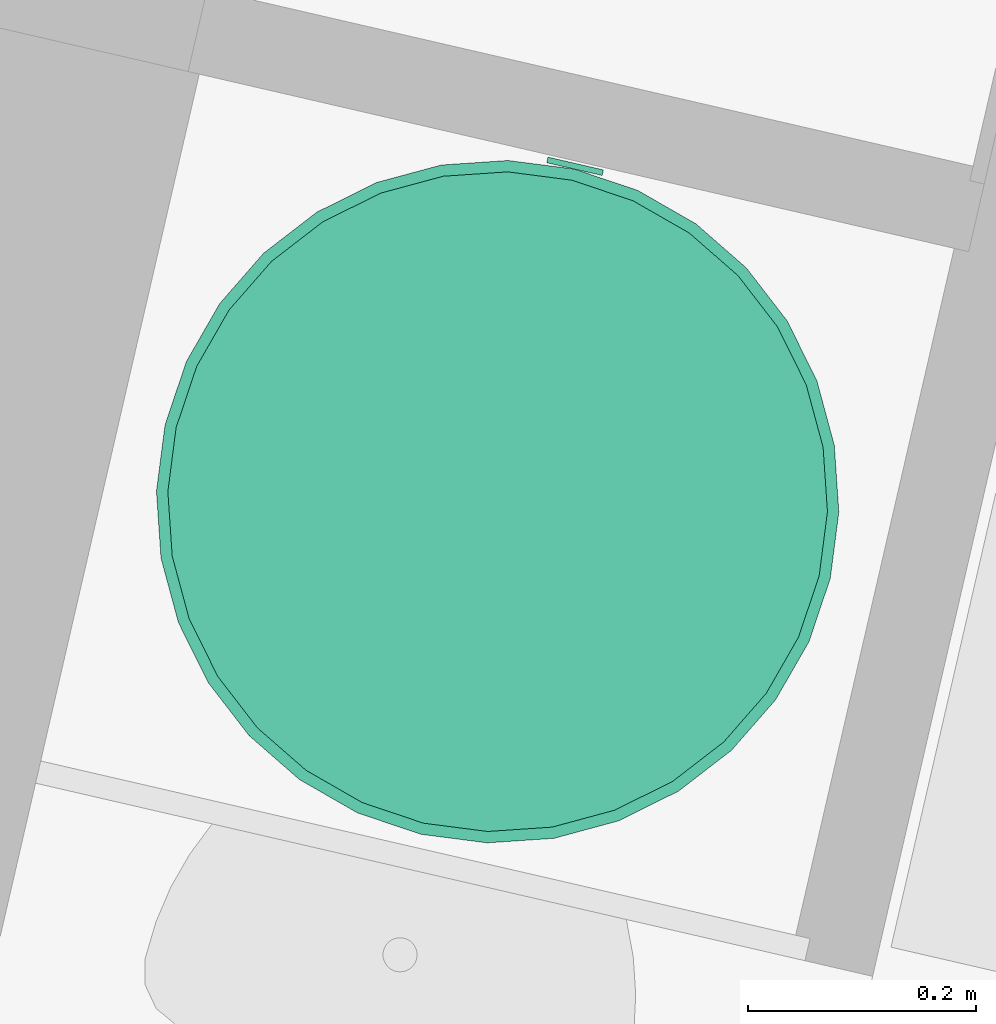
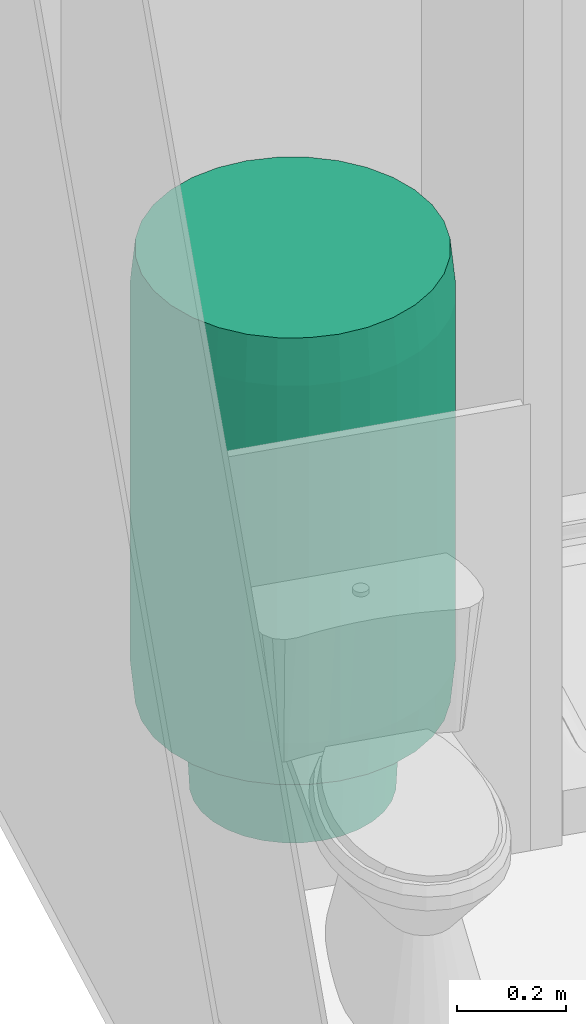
# One storey, part 94 of 119: 1 energy conversion device.
"""IFC2X3 building model written with IfcOpenShell, lengths in metres."""

import ifcopenshell
import ifcopenshell.guid

model = None  # the IFC model being written
_history = None  # IfcOwnerHistory: only IFC2X3 demands one
_inside = {}  # id of a spatial element -> (the spatial element, [elements in it])
_under = {}  # id of a project, library or spatial element -> (it, [spatial elements below it])
_declared = {}  # id of a project -> (the project, [libraries it declares])
_typed = {}  # id of a type object -> (the type object, [elements of that type])
_made_of = {}  # id of a material, layer set ... -> (it, [elements and type objects made of it])


def new_model(schema):
    """Start an empty IFC model of exactly this schema.

    Asked for "IFC4X3", IfcOpenShell would pick the latest addendum, in which some entities
    have other attributes; the version numbers below select the first issue.
    IFC2X3 requires an IfcOwnerHistory on every rooted entity: one is made here for all.
    """
    global model, _history
    if schema == "IFC4X3":
        model = ifcopenshell.file(schema_version=(4, 3, 0, 0))
    else:
        model = ifcopenshell.file(schema=schema)
    _inside.clear()
    _under.clear()
    _declared.clear()
    _typed.clear()
    _made_of.clear()
    _history = None
    if model.schema == "IFC2X3":
        org = make("IfcOrganization", Name="unknown")
        user = make(
            "IfcPersonAndOrganization",
            ThePerson=make("IfcPerson", FamilyName="unknown"),
            TheOrganization=org,
        )
        app = make(
            "IfcApplication",
            ApplicationDeveloper=org,
            Version="unknown",
            ApplicationFullName="unknown",
            ApplicationIdentifier="unknown",
        )
        _history = make(
            "IfcOwnerHistory",
            OwningUser=user,
            OwningApplication=app,
            ChangeAction="ADDED",
            CreationDate=0,
        )
    return model


def make(cls, **values):
    """One entity of the class cls with the attributes given. An attribute that is None is left unset."""
    return model.create_entity(
        cls, **{name: value for name, value in values.items() if value is not None}
    )


def entity(cls, *values):
    """Any entity or typed value of the class cls, its attributes in the order of the schema. None: left unset."""
    e = model.create_entity(cls)
    for i, value in enumerate(values):
        if value is not None:
            e[i] = value
    return e


def rooted(cls, **values):
    """An entity with a GlobalId (a new one), such as an element, a storey or a relation."""
    return make(cls, GlobalId=ifcopenshell.guid.new(), OwnerHistory=_history, **values)


def si_unit(unit_type, name, prefix=None):
    """IfcSIUnit, for example si_unit("LENGTHUNIT", "METRE", prefix="MILLI")."""
    return make("IfcSIUnit", UnitType=unit_type, Prefix=prefix, Name=name)


def converted_unit(unit_type, name, factor, base, dimensions=None, offset=None):
    """IfcConversionBasedUnit, such as the inch: factor (a typed value) times the base unit."""
    return make(
        "IfcConversionBasedUnit"
        if offset is None
        else "IfcConversionBasedUnitWithOffset",
        ConversionOffset=offset,
        Dimensions=None
        if dimensions is None
        else entity("IfcDimensionalExponents", *dimensions),
        UnitType=unit_type,
        Name=name,
        ConversionFactor=make(
            "IfcMeasureWithUnit", ValueComponent=factor, UnitComponent=base
        ),
    )


def derived_unit(unit_type, elements):
    """IfcDerivedUnit: a product of units, each with its exponent."""
    return make(
        "IfcDerivedUnit",
        Elements=[
            make("IfcDerivedUnitElement", Unit=unit, Exponent=power)
            for unit, power in elements
        ],
        UnitType=unit_type,
    )


def money_unit(currency):
    """IfcMonetaryUnit."""
    return make("IfcMonetaryUnit", Currency=currency)


def assignment(units):
    """IfcUnitAssignment: the units of a project."""
    return None if units is None else make("IfcUnitAssignment", Units=units)


def point(xyz):
    """IfcCartesianPoint."""
    return None if xyz is None else make("IfcCartesianPoint", Coordinates=xyz)


def direction(xyz):
    """IfcDirection."""
    return None if xyz is None else make("IfcDirection", DirectionRatios=xyz)


def frame(location, z_axis=None, x_axis=None):
    """IfcAxis2Placement3D, a coordinate frame: its origin and axes. An axis left out is left unset."""
    return make(
        "IfcAxis2Placement3D",
        Location=point(location),
        Axis=direction(z_axis),
        RefDirection=direction(x_axis),
    )


def origin_with_axes():
    """The frame at (0, 0, 0) with the z axis (0, 0, 1) and the x axis (1, 0, 0) written out."""
    return frame((0.0, 0.0, 0.0), z_axis=(0.0, 0.0, 1.0), x_axis=(1.0, 0.0, 0.0))


def place(relative_to, where):
    """IfcLocalPlacement: puts the frame where relative to a parent placement (None: the world)."""
    return make(
        "IfcLocalPlacement", PlacementRelTo=relative_to, RelativePlacement=where
    )


def context(
    kind, dimensions, precision=None, world=None, true_north=None, identifier=None
):
    """IfcGeometricRepresentationContext, for example the 3D "Model" context."""
    return make(
        "IfcGeometricRepresentationContext",
        ContextIdentifier=identifier,
        ContextType=kind,
        CoordinateSpaceDimension=dimensions,
        Precision=precision,
        WorldCoordinateSystem=world,
        TrueNorth=true_north,
    )


def subcontext(parent, identifier, kind, view, scale=None):
    """IfcGeometricRepresentationSubContext, for example "Body" below "Model"."""
    return make(
        "IfcGeometricRepresentationSubContext",
        ContextIdentifier=identifier,
        ContextType=kind,
        ParentContext=parent,
        TargetScale=scale,
        TargetView=view,
    )


def project(units=None, contexts=None):
    """IfcProject with its units and contexts."""
    return rooted(
        "IfcProject",
        Name="project",
        RepresentationContexts=contexts,
        UnitsInContext=assignment(units),
    )


def spatial(cls, under=None, at=None, **own):
    """A site, building, storey or space (cls), placed at a placement, below another one or the project."""
    s = rooted(cls, ObjectPlacement=at, **own)
    if under is not None:
        _under.setdefault(under.id(), (under, []))[1].append(s)
    return s


def faces_of(points, faces, orient=None, outer=None):
    """IfcFace entities. A face is a list of loops; a loop is a list of indices into points, from 0.

    orient and outer hold one flag for each loop. By default every Orientation is true, the
    first loop of a face is its IfcFaceOuterBound and the others are IfcFaceBound.
    """
    made = []
    for i, loops in enumerate(faces):
        bounds = []
        for j, loop in enumerate(loops):
            is_outer = j == 0 if outer is None else outer[i][j]
            bounds.append(
                make(
                    "IfcFaceOuterBound" if is_outer else "IfcFaceBound",
                    Bound=make("IfcPolyLoop", Polygon=[points[k] for k in loop]),
                    Orientation=True if orient is None else orient[i][j],
                )
            )
        made.append(make("IfcFace", Bounds=bounds))
    return made


def open_shell(faces, orient=None, outer=None):
    """The faces of one IfcOpenShell. surface_model builds it on its shared points."""
    return ("IfcOpenShell", faces, orient, outer)


def faceted_brep(points, faces, orient=None, outer=None, voids=None):
    """IfcFacetedBrep: a solid bounded by flat faces; with voids (closed shells), ...WithVoids."""
    shared = [point(p) for p in points]
    hull = make("IfcClosedShell", CfsFaces=faces_of(shared, faces, orient, outer))
    if voids is None:
        return make("IfcFacetedBrep", Outer=hull)
    return make(
        "IfcFacetedBrepWithVoids",
        Outer=hull,
        Voids=[
            make(cls, CfsFaces=faces_of(shared, fs, o, b)) for cls, fs, o, b in voids
        ],
    )


def surface_model(cls, points, shells):
    """IfcFaceBasedSurfaceModel or IfcShellBasedSurfaceModel (cls): surfaces that need not close."""
    shared = [point(p) for p in points]
    made = [make(c, CfsFaces=faces_of(shared, fs, o, b)) for c, fs, o, b in shells]
    if cls == "IfcFaceBasedSurfaceModel":
        return make(cls, FbsmFaces=made)
    return make(cls, SbsmBoundary=made)


def shape(context_of_items, identifier, shape_type, items):
    """IfcShapeRepresentation: the items that make up one representation, for example the "Body"."""
    return make(
        "IfcShapeRepresentation",
        ContextOfItems=context_of_items,
        RepresentationIdentifier=identifier,
        RepresentationType=shape_type,
        Items=items,
    )


def source(mapping_origin, context_of_items, identifier, shape_type, items):
    """IfcRepresentationMap: a shape defined once, which mapped items show again and again."""
    return make(
        "IfcRepresentationMap",
        MappingOrigin=mapping_origin,
        MappedRepresentation=shape(context_of_items, identifier, shape_type, items),
    )


def transform(
    local_origin,
    x_axis=None,
    y_axis=None,
    z_axis=None,
    scale=None,
    scale2=None,
    scale3=None,
    uniform=True,
):
    """IfcCartesianTransformationOperator3D, or its non-uniform kind. x_axis, y_axis, z_axis: its Axis1, 2, 3."""
    if uniform:
        return make(
            "IfcCartesianTransformationOperator3D",
            Axis1=direction(x_axis),
            Axis2=direction(y_axis),
            LocalOrigin=point(local_origin),
            Scale=scale,
            Axis3=direction(z_axis),
        )
    return make(
        "IfcCartesianTransformationOperator3DnonUniform",
        Axis1=direction(x_axis),
        Axis2=direction(y_axis),
        LocalOrigin=point(local_origin),
        Scale=scale,
        Axis3=direction(z_axis),
        Scale2=scale2,
        Scale3=scale3,
    )


def mapped(mapping_source, mapping_target):
    """IfcMappedItem: shows the shape of a source again, moved by a transform."""
    return make(
        "IfcMappedItem", MappingSource=mapping_source, MappingTarget=mapping_target
    )


def made_of(thing, what):
    """Note that an element or type object is made of a material, layer set ...; save() writes the relation."""
    if what is not None:
        _made_of.setdefault(what.id(), (what, []))[1].append(thing)
    return thing


def type_object(cls, material=None, **own):
    """A type object (cls), such as IfcWallType, which elements share."""
    return made_of(rooted(cls, **own), material)


def element(
    cls,
    number,
    at=None,
    inside=None,
    cuts=None,
    type_object=None,
    material=None,
    context=None,
    identifier="Body",
    shape_type=None,
    held_by="IfcProductDefinitionShape",
    body=None,
    shapes=None,
    **own,
):
    """One element of the class cls, such as IfcWall. Its Tag is "e" and its number.

    at: its placement. inside: the storey or other place that contains it. cuts: it is an
    opening in that element (IfcRelVoidsElement). A single representation is given by context,
    identifier, shape_type and body (its items); several are given by shapes. held_by: the class
    of the entity that holds the representations. save() writes the other relations.
    """
    e = rooted(cls, Tag="e%d" % number, ObjectPlacement=at, **own)
    if body is not None:
        shapes = [shape(context, identifier, shape_type, body)]
    if shapes is not None:
        e.Representation = make(held_by, Representations=shapes)
    if inside is not None:
        _inside.setdefault(inside.id(), (inside, []))[1].append(e)
    if cuts is not None:
        rooted(
            "IfcRelVoidsElement", RelatingBuildingElement=cuts, RelatedOpeningElement=e
        )
    if type_object is not None:
        _typed.setdefault(type_object.id(), (type_object, []))[1].append(e)
    return made_of(e, material)


def aggregate(whole, parts):
    """IfcRelAggregates: a whole, such as a stair, and the parts it consists of."""
    return rooted("IfcRelAggregates", RelatingObject=whole, RelatedObjects=parts)


def save(model, path):
    """Write the relations noted so far, then the file.

    IfcRelAggregates (storeys below a building ...), IfcRelContainedInSpatialStructure (elements
    in a storey), IfcRelDefinesByType, IfcRelAssociatesMaterial and IfcRelDeclares: one each for
    every whole, place, type object, material and project.
    """
    for whole, parts in _under.values():
        aggregate(whole, parts)
    for where, things in _inside.values():
        rooted(
            "IfcRelContainedInSpatialStructure",
            RelatedElements=things,
            RelatingStructure=where,
        )
    for kind, things in _typed.values():
        rooted("IfcRelDefinesByType", RelatedObjects=things, RelatingType=kind)
    for what, things in _made_of.values():
        rooted("IfcRelAssociatesMaterial", RelatedObjects=things, RelatingMaterial=what)
    for by, libraries in _declared.values():
        rooted("IfcRelDeclares", RelatingContext=by, RelatedDefinitions=libraries)
    model.write(path)


model = new_model("IFC2X3")

# Units and contexts
model_context = context("Model", 3, precision=1e-05, world=origin_with_axes(), true_north=direction((0.0, 1.0)))
body_context = subcontext(model_context, "Body", "Model", "MODEL_VIEW")
ifc_project = project(units=[si_unit("LENGTHUNIT", "METRE"), si_unit("AREAUNIT", "SQUARE_METRE"), si_unit("VOLUMEUNIT", "CUBIC_METRE"), converted_unit("PLANEANGLEUNIT", "DEGREE", entity("IfcPlaneAngleMeasure", 0.0174532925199), si_unit("PLANEANGLEUNIT", "RADIAN"), dimensions=[0, 0, 0, 0, 0, 0, 0]), si_unit("SOLIDANGLEUNIT", "STERADIAN"), money_unit("EUR"), converted_unit("TIMEUNIT", "Year", entity("IfcTimeMeasure", 31556926.0), si_unit("TIMEUNIT", "SECOND"), dimensions=[0, 0, 1, 0, 0, 0, 0]), si_unit("MASSUNIT", "GRAM", prefix="KILO"), si_unit("THERMODYNAMICTEMPERATUREUNIT", "DEGREE_CELSIUS"), si_unit("LUMINOUSINTENSITYUNIT", "LUMEN"), si_unit("ENERGYUNIT", "JOULE", prefix="MEGA"), derived_unit("THERMALCONDUCTANCEUNIT", [(si_unit("POWERUNIT", "WATT"), 1), (si_unit("LENGTHUNIT", "METRE"), -1), (si_unit("THERMODYNAMICTEMPERATUREUNIT", "KELVIN"), -1)]), derived_unit("SPECIFICHEATCAPACITYUNIT", [(si_unit("ENERGYUNIT", "JOULE"), 1), (si_unit("MASSUNIT", "GRAM", prefix="KILO"), -1), (si_unit("THERMODYNAMICTEMPERATUREUNIT", "KELVIN"), -1)]), derived_unit("MASSDENSITYUNIT", [(si_unit("MASSUNIT", "GRAM", prefix="KILO"), 1), (si_unit("VOLUMEUNIT", "CUBIC_METRE"), -1)])], contexts=[model_context])

# Site, building, storey
site_placement = place(None, origin_with_axes())
site = spatial("IfcSite", under=ifc_project, at=site_placement, Name="Site", CompositionType="ELEMENT")
building_placement = place(site_placement, origin_with_axes())
building = spatial("IfcBuilding", under=site, at=building_placement, Name="Bâtiment", CompositionType="ELEMENT")
storey_placement = place(building_placement, origin_with_axes())
storey = spatial("IfcBuildingStorey", under=building, at=storey_placement, Name="Rez-de-chaussée", CompositionType="ELEMENT", Elevation=0.0)

# Energy conversion device
heat_exchanger_type = type_object("IfcHeatExchangerType", Name="Chauffe-eau électrique 23", PredefinedType="SHELLANDTUBE")
shared_shape = source(origin_with_axes(), body_context, "Body", "SurfaceModel", [
    surface_model("IfcShellBasedSurfaceModel", [(-0.245, -0.0135, 0.2), (-0.245, -0.0135, 0.18), (-0.241505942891, -0.0130399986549, 0.18), (-0.241505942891, -0.0130399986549, 0.2), (-0.248494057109, -0.0130399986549, 0.2), (-0.248494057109, -0.0130399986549, 0.18), (-0.23825, -0.0116913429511, 0.18), (-0.23825, -0.0116913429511, 0.2), (-0.25175, -0.0116913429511, 0.2), (-0.25175, -0.0116913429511, 0.18), (-0.235454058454, -0.00954594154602, 0.18), (-0.235454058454, -0.00954594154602, 0.2), (-0.254545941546, -0.00954594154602, 0.2), (-0.254545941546, -0.00954594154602, 0.18), (-0.233308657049, -0.00675, 0.18), (-0.233308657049, -0.00675, 0.2), (-0.256691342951, -0.00675, 0.2), (-0.256691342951, -0.00675, 0.18), (-0.231960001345, -0.00349405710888, 0.18), (-0.231960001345, -0.00349405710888, 0.2), (-0.258039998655, -0.00349405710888, 0.2), (-0.258039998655, -0.00349405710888, 0.18), (-0.2315, 0.0, 0.18), (-0.2315, 0.0, 0.2), (-0.2585, 0.0, 0.2), (-0.2585, 0.0, 0.18), (-0.231960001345, 0.00349405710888, 0.18), (-0.231960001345, 0.00349405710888, 0.2), (-0.258039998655, 0.00349405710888, 0.2), (-0.258039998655, 0.00349405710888, 0.18), (-0.233308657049, 0.00675, 0.18), (-0.233308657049, 0.00675, 0.2), (-0.256691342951, 0.00675, 0.2), (-0.256691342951, 0.00675, 0.18), (-0.235454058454, 0.00954594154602, 0.18), (-0.235454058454, 0.00954594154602, 0.2), (-0.254545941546, 0.00954594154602, 0.2), (-0.254545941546, 0.00954594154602, 0.18), (-0.23825, 0.0116913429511, 0.18), (-0.23825, 0.0116913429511, 0.2), (-0.25175, 0.0116913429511, 0.2), (-0.25175, 0.0116913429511, 0.18), (-0.241505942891, 0.0130399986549, 0.18), (-0.241505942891, 0.0130399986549, 0.2), (-0.248494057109, 0.0130399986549, 0.2), (-0.248494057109, 0.0130399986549, 0.18), (-0.245, 0.0135, 0.18), (-0.245, 0.0135, 0.2)], [open_shell([[[0, 1, 2, 3]], [[4, 5, 1, 0]], [[3, 2, 6, 7]], [[8, 9, 5, 4]], [[7, 6, 10, 11]], [[12, 13, 9, 8]], [[11, 10, 14, 15]], [[16, 17, 13, 12]], [[15, 14, 18, 19]], [[20, 21, 17, 16]], [[19, 18, 22, 23]], [[24, 25, 21, 20]], [[23, 22, 26, 27]], [[28, 29, 25, 24]], [[27, 26, 30, 31]], [[32, 33, 29, 28]], [[31, 30, 34, 35]], [[36, 37, 33, 32]], [[35, 34, 38, 39]], [[40, 41, 37, 36]], [[39, 38, 42, 43]], [[44, 45, 41, 40]], [[43, 42, 46, 47]], [[47, 46, 45, 44]]])]),
    surface_model("IfcShellBasedSurfaceModel", [(0.245, -0.0135, 0.2), (0.245, -0.0135, 0.18), (0.248494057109, -0.0130399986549, 0.18), (0.248494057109, -0.0130399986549, 0.2), (0.241505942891, -0.0130399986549, 0.2), (0.241505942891, -0.0130399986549, 0.18), (0.25175, -0.0116913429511, 0.18), (0.25175, -0.0116913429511, 0.2), (0.23825, -0.0116913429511, 0.2), (0.23825, -0.0116913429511, 0.18), (0.254545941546, -0.00954594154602, 0.18), (0.254545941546, -0.00954594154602, 0.2), (0.235454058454, -0.00954594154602, 0.2), (0.235454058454, -0.00954594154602, 0.18), (0.256691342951, -0.00675, 0.18), (0.256691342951, -0.00675, 0.2), (0.233308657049, -0.00675, 0.2), (0.233308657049, -0.00675, 0.18), (0.258039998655, -0.00349405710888, 0.18), (0.258039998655, -0.00349405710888, 0.2), (0.231960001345, -0.00349405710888, 0.2), (0.231960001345, -0.00349405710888, 0.18), (0.2585, 0.0, 0.18), (0.2585, 0.0, 0.2), (0.2315, 0.0, 0.2), (0.2315, 0.0, 0.18), (0.258039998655, 0.00349405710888, 0.18), (0.258039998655, 0.00349405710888, 0.2), (0.231960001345, 0.00349405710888, 0.2), (0.231960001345, 0.00349405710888, 0.18), (0.256691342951, 0.00675, 0.18), (0.256691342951, 0.00675, 0.2), (0.233308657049, 0.00675, 0.2), (0.233308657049, 0.00675, 0.18), (0.254545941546, 0.00954594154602, 0.18), (0.254545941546, 0.00954594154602, 0.2), (0.235454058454, 0.00954594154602, 0.2), (0.235454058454, 0.00954594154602, 0.18), (0.25175, 0.0116913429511, 0.18), (0.25175, 0.0116913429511, 0.2), (0.23825, 0.0116913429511, 0.2), (0.23825, 0.0116913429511, 0.18), (0.248494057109, 0.0130399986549, 0.18), (0.248494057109, 0.0130399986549, 0.2), (0.241505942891, 0.0130399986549, 0.2), (0.241505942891, 0.0130399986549, 0.18), (0.245, 0.0135, 0.18), (0.245, 0.0135, 0.2)], [open_shell([[[0, 1, 2, 3]], [[4, 5, 1, 0]], [[3, 2, 6, 7]], [[8, 9, 5, 4]], [[7, 6, 10, 11]], [[12, 13, 9, 8]], [[11, 10, 14, 15]], [[16, 17, 13, 12]], [[15, 14, 18, 19]], [[20, 21, 17, 16]], [[19, 18, 22, 23]], [[24, 25, 21, 20]], [[23, 22, 26, 27]], [[28, 29, 25, 24]], [[27, 26, 30, 31]], [[32, 33, 29, 28]], [[31, 30, 34, 35]], [[36, 37, 33, 32]], [[35, 34, 38, 39]], [[40, 41, 37, 36]], [[39, 38, 42, 43]], [[44, 45, 41, 40]], [[43, 42, 46, 47]], [[47, 46, 45, 44]]])]),
    faceted_brep([(-0.025, -0.305, 0.4), (-0.025, -0.3, 0.4), (0.025, -0.3, 0.4), (0.025, -0.305, 0.4), (-0.025, -0.305, 0.42), (-0.025, -0.3, 0.42), (0.025, -0.3, 0.42), (0.025, -0.305, 0.42)], [[[0, 1, 2, 3]], [[0, 4, 5, 1]], [[1, 5, 6, 2]], [[2, 6, 7, 3]], [[3, 7, 4, 0]], [[7, 6, 5, 4]]]),
    faceted_brep([(0.0222836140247, -0.16, 0.088519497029), (0.02, -0.16, 0.1), (0.0222836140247, -0.16, 0.111480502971), (0.0287867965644, -0.16, 0.121213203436), (0.038519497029, -0.16, 0.127716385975), (0.05, -0.16, 0.13), (0.061480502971, -0.16, 0.127716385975), (0.0712132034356, -0.16, 0.121213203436), (0.0777163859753, -0.16, 0.111480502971), (0.08, -0.16, 0.1), (0.0777163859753, -0.16, 0.088519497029), (0.0712132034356, -0.16, 0.0787867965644), (0.061480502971, -0.16, 0.0722836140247), (0.05, -0.16, 0.07), (0.038519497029, -0.16, 0.0722836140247), (0.0287867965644, -0.16, 0.0787867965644), (0.0222836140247, -0.175, 0.088519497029), (0.02, -0.175, 0.1), (0.0222836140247, -0.175, 0.111480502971), (0.0287867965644, -0.175, 0.121213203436), (0.038519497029, -0.175, 0.127716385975), (0.05, -0.175, 0.13), (0.061480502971, -0.175, 0.127716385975), (0.0712132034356, -0.175, 0.121213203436), (0.0777163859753, -0.175, 0.111480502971), (0.08, -0.175, 0.1), (0.0777163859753, -0.175, 0.088519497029), (0.0712132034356, -0.175, 0.0787867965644), (0.061480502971, -0.175, 0.0722836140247), (0.05, -0.175, 0.07), (0.038519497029, -0.175, 0.0722836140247), (0.0287867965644, -0.175, 0.0787867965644)], [[[0, 1, 2, 3, 4, 5, 6, 7, 8, 9, 10, 11, 12, 13, 14, 15]], [[0, 16, 17, 1]], [[1, 17, 18, 2]], [[2, 18, 19, 3]], [[3, 19, 20, 4]], [[4, 20, 21, 5]], [[5, 21, 22, 6]], [[6, 22, 23, 7]], [[7, 23, 24, 8]], [[8, 24, 25, 9]], [[9, 25, 26, 10]], [[10, 26, 27, 11]], [[11, 27, 28, 12]], [[12, 28, 29, 13]], [[13, 29, 30, 14]], [[14, 30, 31, 15]], [[15, 31, 16, 0]], [[16, 31, 30, 29, 28, 27, 26, 25, 24, 23, 22, 21, 20, 19, 18, 17]]]),
    faceted_brep([(-0.0777163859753, -0.16, 0.088519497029), (-0.08, -0.16, 0.1), (-0.0777163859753, -0.16, 0.111480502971), (-0.0712132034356, -0.16, 0.121213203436), (-0.061480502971, -0.16, 0.127716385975), (-0.05, -0.16, 0.13), (-0.038519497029, -0.16, 0.127716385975), (-0.0287867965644, -0.16, 0.121213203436), (-0.0222836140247, -0.16, 0.111480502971), (-0.02, -0.16, 0.1), (-0.0222836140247, -0.16, 0.088519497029), (-0.0287867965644, -0.16, 0.0787867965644), (-0.038519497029, -0.16, 0.0722836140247), (-0.05, -0.16, 0.07), (-0.061480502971, -0.16, 0.0722836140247), (-0.0712132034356, -0.16, 0.0787867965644), (-0.0777163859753, -0.175, 0.088519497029), (-0.08, -0.175, 0.1), (-0.0777163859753, -0.175, 0.111480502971), (-0.0712132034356, -0.175, 0.121213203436), (-0.061480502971, -0.175, 0.127716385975), (-0.05, -0.175, 0.13), (-0.038519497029, -0.175, 0.127716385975), (-0.0287867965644, -0.175, 0.121213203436), (-0.0222836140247, -0.175, 0.111480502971), (-0.02, -0.175, 0.1), (-0.0222836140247, -0.175, 0.088519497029), (-0.0287867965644, -0.175, 0.0787867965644), (-0.038519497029, -0.175, 0.0722836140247), (-0.05, -0.175, 0.07), (-0.061480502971, -0.175, 0.0722836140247), (-0.0712132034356, -0.175, 0.0787867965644)], [[[0, 1, 2, 3, 4, 5, 6, 7, 8, 9, 10, 11, 12, 13, 14, 15]], [[0, 16, 17, 1]], [[1, 17, 18, 2]], [[2, 18, 19, 3]], [[3, 19, 20, 4]], [[4, 20, 21, 5]], [[5, 21, 22, 6]], [[6, 22, 23, 7]], [[7, 23, 24, 8]], [[8, 24, 25, 9]], [[9, 25, 26, 10]], [[10, 26, 27, 11]], [[11, 27, 28, 12]], [[12, 28, 29, 13]], [[13, 29, 30, 14]], [[14, 30, 31, 15]], [[15, 31, 16, 0]], [[16, 31, 30, 29, 28, 27, 26, 25, 24, 23, 22, 21, 20, 19, 18, 17]]]),
    faceted_brep([(-0.186349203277, -0.0370671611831, 0.0), (-0.196157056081, -0.0390180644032, 0.2), (-0.2, 0.0, 0.2), (-0.19, 0.0, 0.0), (-0.175537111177, -0.0727098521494, 0.0), (-0.184775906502, -0.076536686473, 0.2), (-0.166293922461, -0.111114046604, 0.2), (-0.141421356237, -0.141421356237, 0.2), (-0.118783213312, -0.16, 0.2), (0.118783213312, -0.16, 0.2), (0.141421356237, -0.141421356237, 0.2), (0.166293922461, -0.111114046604, 0.2), (0.184775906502, -0.076536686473, 0.2), (0.196157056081, -0.0390180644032, 0.2), (0.2, 0.0, 0.2), (0.196157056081, 0.0390180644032, 0.2), (0.184775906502, 0.076536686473, 0.2), (0.166293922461, 0.111114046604, 0.2), (0.141421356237, 0.141421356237, 0.2), (0.111114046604, 0.166293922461, 0.2), (0.076536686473, 0.184775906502, 0.2), (0.0390180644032, 0.196157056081, 0.2), (0.0, 0.2, 0.2), (-0.0390180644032, 0.196157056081, 0.2), (-0.076536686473, 0.184775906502, 0.2), (-0.111114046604, 0.166293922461, 0.2), (-0.141421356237, 0.141421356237, 0.2), (-0.166293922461, 0.111114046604, 0.2), (-0.184775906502, 0.076536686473, 0.2), (-0.196157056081, 0.0390180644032, 0.2), (-0.186349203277, 0.0370671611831, 0.0), (-0.175537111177, 0.0727098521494, 0.0), (-0.157979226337, 0.105558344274, 0.0), (-0.134350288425, 0.134350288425, 0.0), (-0.105558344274, 0.157979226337, 0.0), (-0.0727098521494, 0.175537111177, 0.0), (-0.0370671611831, 0.186349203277, 0.0), (0.0, 0.19, 0.0), (0.0370671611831, 0.186349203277, 0.0), (0.0727098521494, 0.175537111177, 0.0), (0.105558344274, 0.157979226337, 0.0), (0.134350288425, 0.134350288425, 0.0), (0.157979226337, 0.105558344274, 0.0), (0.175537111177, 0.0727098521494, 0.0), (0.186349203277, 0.0370671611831, 0.0), (0.19, 0.0, 0.0), (0.186349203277, -0.0370671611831, 0.0), (0.175537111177, -0.0727098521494, 0.0), (0.157979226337, -0.105558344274, 0.0), (0.134350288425, -0.134350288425, 0.0), (0.105558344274, -0.157979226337, 0.0), (0.101777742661, -0.16, 0.0), (-0.101777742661, -0.16, 0.0), (-0.105558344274, -0.157979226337, 0.0), (-0.134350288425, -0.134350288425, 0.0), (-0.157979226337, -0.105558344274, 0.0), (-0.106908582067, -0.16, 0.0486072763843), (0.106908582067, -0.16, 0.0486072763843)], [[[0, 1, 2, 3]], [[4, 5, 1, 0]], [[1, 5, 6, 7, 8, 9, 10, 11, 12, 13, 14, 15, 16, 17, 18, 19, 20, 21, 22, 23, 24, 25, 26, 27, 28, 29, 2]], [[3, 2, 29, 30]], [[0, 3, 30, 31, 32, 33, 34, 35, 36, 37, 38, 39, 40, 41, 42, 43, 44, 45, 46, 47, 48, 49, 50, 51, 52, 53, 54, 55, 4]], [[55, 6, 5, 4]], [[54, 7, 6, 55]], [[53, 56, 8, 7, 54]], [[51, 57, 9, 8, 56, 52]], [[49, 10, 9, 57, 50]], [[48, 11, 10, 49]], [[47, 12, 11, 48]], [[46, 13, 12, 47]], [[45, 14, 13, 46]], [[44, 15, 14, 45]], [[43, 16, 15, 44]], [[42, 17, 16, 43]], [[41, 18, 17, 42]], [[40, 19, 18, 41]], [[39, 20, 19, 40]], [[38, 21, 20, 39]], [[37, 22, 21, 38]], [[36, 23, 22, 37]], [[35, 24, 23, 36]], [[34, 25, 24, 35]], [[33, 26, 25, 34]], [[32, 27, 26, 33]], [[31, 28, 27, 32]], [[30, 29, 28, 31]], [[50, 57, 51]], [[52, 56, 53]]]),
    faceted_brep([(-0.284427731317, -0.0565761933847, 0.2), (-0.294235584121, -0.0585270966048, 0.3), (-0.3, 0.0, 0.3), (-0.29, 0.0, 0.2), (-0.267925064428, -0.110978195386, 0.2), (-0.277163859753, -0.11480502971, 0.3), (-0.249440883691, -0.166671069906, 0.3), (-0.212132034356, -0.212132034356, 0.3), (-0.166671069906, -0.249440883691, 0.3), (-0.11480502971, -0.277163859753, 0.3), (-0.0585270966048, -0.294235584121, 0.3), (0.0, -0.3, 0.3), (0.0585270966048, -0.294235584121, 0.3), (0.11480502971, -0.277163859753, 0.3), (0.166671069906, -0.249440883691, 0.3), (0.212132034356, -0.212132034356, 0.3), (0.249440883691, -0.166671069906, 0.3), (0.277163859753, -0.11480502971, 0.3), (0.294235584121, -0.0585270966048, 0.3), (0.3, 0.0, 0.3), (0.294235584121, 0.0585270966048, 0.3), (0.277163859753, 0.11480502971, 0.3), (0.249440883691, 0.166671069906, 0.3), (0.212132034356, 0.212132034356, 0.3), (0.166671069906, 0.249440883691, 0.3), (0.11480502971, 0.277163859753, 0.3), (0.0585270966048, 0.294235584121, 0.3), (0.0, 0.3, 0.3), (-0.0585270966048, 0.294235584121, 0.3), (-0.11480502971, 0.277163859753, 0.3), (-0.166671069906, 0.249440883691, 0.3), (-0.212132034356, 0.212132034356, 0.3), (-0.249440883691, 0.166671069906, 0.3), (-0.277163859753, 0.11480502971, 0.3), (-0.294235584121, 0.0585270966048, 0.3), (-0.284427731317, 0.0565761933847, 0.2), (-0.267925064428, 0.110978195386, 0.2), (-0.241126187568, 0.161115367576, 0.2), (-0.205060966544, 0.205060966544, 0.2), (-0.161115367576, 0.241126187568, 0.2), (-0.110978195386, 0.267925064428, 0.2), (-0.0565761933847, 0.284427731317, 0.2), (0.0, 0.29, 0.2), (0.0565761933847, 0.284427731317, 0.2), (0.110978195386, 0.267925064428, 0.2), (0.161115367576, 0.241126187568, 0.2), (0.205060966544, 0.205060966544, 0.2), (0.241126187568, 0.161115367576, 0.2), (0.267925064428, 0.110978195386, 0.2), (0.284427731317, 0.0565761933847, 0.2), (0.29, 0.0, 0.2), (0.284427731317, -0.0565761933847, 0.2), (0.267925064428, -0.110978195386, 0.2), (0.241126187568, -0.161115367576, 0.2), (0.205060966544, -0.205060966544, 0.2), (0.161115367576, -0.241126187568, 0.2), (0.110978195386, -0.267925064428, 0.2), (0.0565761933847, -0.284427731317, 0.2), (0.0, -0.29, 0.2), (-0.0565761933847, -0.284427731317, 0.2), (-0.110978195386, -0.267925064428, 0.2), (-0.161115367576, -0.241126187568, 0.2), (-0.205060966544, -0.205060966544, 0.2), (-0.241126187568, -0.161115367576, 0.2)], [[[0, 1, 2, 3]], [[4, 5, 1, 0]], [[1, 5, 6, 7, 8, 9, 10, 11, 12, 13, 14, 15, 16, 17, 18, 19, 20, 21, 22, 23, 24, 25, 26, 27, 28, 29, 30, 31, 32, 33, 34, 2]], [[3, 2, 34, 35]], [[0, 3, 35, 36, 37, 38, 39, 40, 41, 42, 43, 44, 45, 46, 47, 48, 49, 50, 51, 52, 53, 54, 55, 56, 57, 58, 59, 60, 61, 62, 63, 4]], [[63, 6, 5, 4]], [[62, 7, 6, 63]], [[61, 8, 7, 62]], [[60, 9, 8, 61]], [[59, 10, 9, 60]], [[58, 11, 10, 59]], [[57, 12, 11, 58]], [[56, 13, 12, 57]], [[55, 14, 13, 56]], [[54, 15, 14, 55]], [[53, 16, 15, 54]], [[52, 17, 16, 53]], [[51, 18, 17, 52]], [[50, 19, 18, 51]], [[49, 20, 19, 50]], [[48, 21, 20, 49]], [[47, 22, 21, 48]], [[46, 23, 22, 47]], [[45, 24, 23, 46]], [[44, 25, 24, 45]], [[43, 26, 25, 44]], [[42, 27, 26, 43]], [[41, 28, 27, 42]], [[40, 29, 28, 41]], [[39, 30, 29, 40]], [[38, 31, 30, 39]], [[37, 32, 31, 38]], [[36, 33, 32, 37]], [[35, 34, 33, 36]]]),
    faceted_brep([(-0.294235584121, -0.0585270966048, 0.3), (-0.3, 0.0, 0.3), (-0.294235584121, 0.0585270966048, 0.3), (-0.277163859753, 0.11480502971, 0.3), (-0.249440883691, 0.166671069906, 0.3), (-0.212132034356, 0.212132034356, 0.3), (-0.166671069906, 0.249440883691, 0.3), (-0.11480502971, 0.277163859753, 0.3), (-0.0585270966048, 0.294235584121, 0.3), (0.0, 0.3, 0.3), (0.0585270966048, 0.294235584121, 0.3), (0.11480502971, 0.277163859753, 0.3), (0.166671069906, 0.249440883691, 0.3), (0.212132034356, 0.212132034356, 0.3), (0.249440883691, 0.166671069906, 0.3), (0.277163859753, 0.11480502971, 0.3), (0.294235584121, 0.0585270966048, 0.3), (0.3, 0.0, 0.3), (0.294235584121, -0.0585270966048, 0.3), (0.277163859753, -0.11480502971, 0.3), (0.249440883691, -0.166671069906, 0.3), (0.212132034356, -0.212132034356, 0.3), (0.166671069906, -0.249440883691, 0.3), (0.11480502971, -0.277163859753, 0.3), (0.0585270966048, -0.294235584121, 0.3), (0.0, -0.3, 0.3), (-0.0585270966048, -0.294235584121, 0.3), (-0.11480502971, -0.277163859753, 0.3), (-0.166671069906, -0.249440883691, 0.3), (-0.212132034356, -0.212132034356, 0.3), (-0.249440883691, -0.166671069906, 0.3), (-0.277163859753, -0.11480502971, 0.3), (-0.294235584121, -0.0585270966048, 1.1), (-0.3, 0.0, 1.1), (-0.294235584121, 0.0585270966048, 1.1), (-0.277163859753, 0.11480502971, 1.1), (-0.249440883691, 0.166671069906, 1.1), (-0.212132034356, 0.212132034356, 1.1), (-0.166671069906, 0.249440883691, 1.1), (-0.11480502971, 0.277163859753, 1.1), (-0.0585270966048, 0.294235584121, 1.1), (0.0, 0.3, 1.1), (0.0585270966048, 0.294235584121, 1.1), (0.11480502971, 0.277163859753, 1.1), (0.166671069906, 0.249440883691, 1.1), (0.212132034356, 0.212132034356, 1.1), (0.249440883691, 0.166671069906, 1.1), (0.277163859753, 0.11480502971, 1.1), (0.294235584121, 0.0585270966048, 1.1), (0.3, 0.0, 1.1), (0.294235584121, -0.0585270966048, 1.1), (0.277163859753, -0.11480502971, 1.1), (0.249440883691, -0.166671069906, 1.1), (0.212132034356, -0.212132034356, 1.1), (0.166671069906, -0.249440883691, 1.1), (0.11480502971, -0.277163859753, 1.1), (0.0585270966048, -0.294235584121, 1.1), (0.0, -0.3, 1.1), (-0.0585270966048, -0.294235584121, 1.1), (-0.11480502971, -0.277163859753, 1.1), (-0.166671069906, -0.249440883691, 1.1), (-0.212132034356, -0.212132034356, 1.1), (-0.249440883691, -0.166671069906, 1.1), (-0.277163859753, -0.11480502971, 1.1)], [[[0, 1, 2, 3, 4, 5, 6, 7, 8, 9, 10, 11, 12, 13, 14, 15, 16, 17, 18, 19, 20, 21, 22, 23, 24, 25, 26, 27, 28, 29, 30, 31]], [[0, 32, 33, 1]], [[1, 33, 34, 2]], [[2, 34, 35, 3]], [[3, 35, 36, 4]], [[4, 36, 37, 5]], [[5, 37, 38, 6]], [[6, 38, 39, 7]], [[7, 39, 40, 8]], [[8, 40, 41, 9]], [[9, 41, 42, 10]], [[10, 42, 43, 11]], [[11, 43, 44, 12]], [[12, 44, 45, 13]], [[13, 45, 46, 14]], [[14, 46, 47, 15]], [[15, 47, 48, 16]], [[16, 48, 49, 17]], [[17, 49, 50, 18]], [[18, 50, 51, 19]], [[19, 51, 52, 20]], [[20, 52, 53, 21]], [[21, 53, 54, 22]], [[22, 54, 55, 23]], [[23, 55, 56, 24]], [[24, 56, 57, 25]], [[25, 57, 58, 26]], [[26, 58, 59, 27]], [[27, 59, 60, 28]], [[28, 60, 61, 29]], [[29, 61, 62, 30]], [[30, 62, 63, 31]], [[31, 63, 32, 0]], [[32, 63, 62, 61, 60, 59, 58, 57, 56, 55, 54, 53, 52, 51, 50, 49, 48, 47, 46, 45, 44, 43, 42, 41, 40, 39, 38, 37, 36, 35, 34, 33]]]),
    faceted_brep([(-0.294235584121, -0.0585270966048, 1.1), (-0.284427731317, -0.0565761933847, 1.2), (-0.29, 0.0, 1.2), (-0.3, 0.0, 1.1), (-0.277163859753, -0.11480502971, 1.1), (-0.267925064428, -0.110978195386, 1.2), (-0.241126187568, -0.161115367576, 1.2), (-0.205060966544, -0.205060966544, 1.2), (-0.161115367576, -0.241126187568, 1.2), (-0.110978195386, -0.267925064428, 1.2), (-0.0565761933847, -0.284427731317, 1.2), (0.0, -0.29, 1.2), (0.0565761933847, -0.284427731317, 1.2), (0.110978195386, -0.267925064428, 1.2), (0.161115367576, -0.241126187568, 1.2), (0.205060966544, -0.205060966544, 1.2), (0.241126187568, -0.161115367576, 1.2), (0.267925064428, -0.110978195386, 1.2), (0.284427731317, -0.0565761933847, 1.2), (0.29, 0.0, 1.2), (0.284427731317, 0.0565761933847, 1.2), (0.267925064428, 0.110978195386, 1.2), (0.241126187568, 0.161115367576, 1.2), (0.205060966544, 0.205060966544, 1.2), (0.161115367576, 0.241126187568, 1.2), (0.110978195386, 0.267925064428, 1.2), (0.0565761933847, 0.284427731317, 1.2), (0.0, 0.29, 1.2), (-0.0565761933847, 0.284427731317, 1.2), (-0.110978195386, 0.267925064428, 1.2), (-0.161115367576, 0.241126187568, 1.2), (-0.205060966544, 0.205060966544, 1.2), (-0.241126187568, 0.161115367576, 1.2), (-0.267925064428, 0.110978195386, 1.2), (-0.284427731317, 0.0565761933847, 1.2), (-0.294235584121, 0.0585270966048, 1.1), (-0.277163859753, 0.11480502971, 1.1), (-0.249440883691, 0.166671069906, 1.1), (-0.212132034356, 0.212132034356, 1.1), (-0.166671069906, 0.249440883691, 1.1), (-0.11480502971, 0.277163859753, 1.1), (-0.0585270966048, 0.294235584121, 1.1), (0.0, 0.3, 1.1), (0.0585270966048, 0.294235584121, 1.1), (0.11480502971, 0.277163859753, 1.1), (0.166671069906, 0.249440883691, 1.1), (0.212132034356, 0.212132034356, 1.1), (0.249440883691, 0.166671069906, 1.1), (0.277163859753, 0.11480502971, 1.1), (0.294235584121, 0.0585270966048, 1.1), (0.3, 0.0, 1.1), (0.294235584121, -0.0585270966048, 1.1), (0.277163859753, -0.11480502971, 1.1), (0.249440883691, -0.166671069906, 1.1), (0.212132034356, -0.212132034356, 1.1), (0.166671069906, -0.249440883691, 1.1), (0.11480502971, -0.277163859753, 1.1), (0.0585270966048, -0.294235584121, 1.1), (0.0, -0.3, 1.1), (-0.0585270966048, -0.294235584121, 1.1), (-0.11480502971, -0.277163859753, 1.1), (-0.166671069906, -0.249440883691, 1.1), (-0.212132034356, -0.212132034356, 1.1), (-0.249440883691, -0.166671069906, 1.1)], [[[0, 1, 2, 3]], [[4, 5, 1, 0]], [[1, 5, 6, 7, 8, 9, 10, 11, 12, 13, 14, 15, 16, 17, 18, 19, 20, 21, 22, 23, 24, 25, 26, 27, 28, 29, 30, 31, 32, 33, 34, 2]], [[3, 2, 34, 35]], [[0, 3, 35, 36, 37, 38, 39, 40, 41, 42, 43, 44, 45, 46, 47, 48, 49, 50, 51, 52, 53, 54, 55, 56, 57, 58, 59, 60, 61, 62, 63, 4]], [[63, 6, 5, 4]], [[62, 7, 6, 63]], [[61, 8, 7, 62]], [[60, 9, 8, 61]], [[59, 10, 9, 60]], [[58, 11, 10, 59]], [[57, 12, 11, 58]], [[56, 13, 12, 57]], [[55, 14, 13, 56]], [[54, 15, 14, 55]], [[53, 16, 15, 54]], [[52, 17, 16, 53]], [[51, 18, 17, 52]], [[50, 19, 18, 51]], [[49, 20, 19, 50]], [[48, 21, 20, 49]], [[47, 22, 21, 48]], [[46, 23, 22, 47]], [[45, 24, 23, 46]], [[44, 25, 24, 45]], [[43, 26, 25, 44]], [[42, 27, 26, 43]], [[41, 28, 27, 42]], [[40, 29, 28, 41]], [[39, 30, 29, 40]], [[38, 31, 30, 39]], [[37, 32, 31, 38]], [[36, 33, 32, 37]], [[35, 34, 33, 36]]]),
])
energy_conversion_device_placement = place(storey_placement, frame((-11.1628814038, -9.73811715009, 0.0), z_axis=(0.0, 0.0, 1.0), x_axis=(-0.97438734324, 0.224876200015, 0.0)))
element("IfcEnergyConversionDevice", 1, at=energy_conversion_device_placement, inside=storey, type_object=heat_exchanger_type, Name="MOB-002", context=body_context, shape_type="MappedRepresentation", body=[
    mapped(shared_shape, transform((0.0, 0.0, 0.0))),
])

save(model, "model.ifc")
